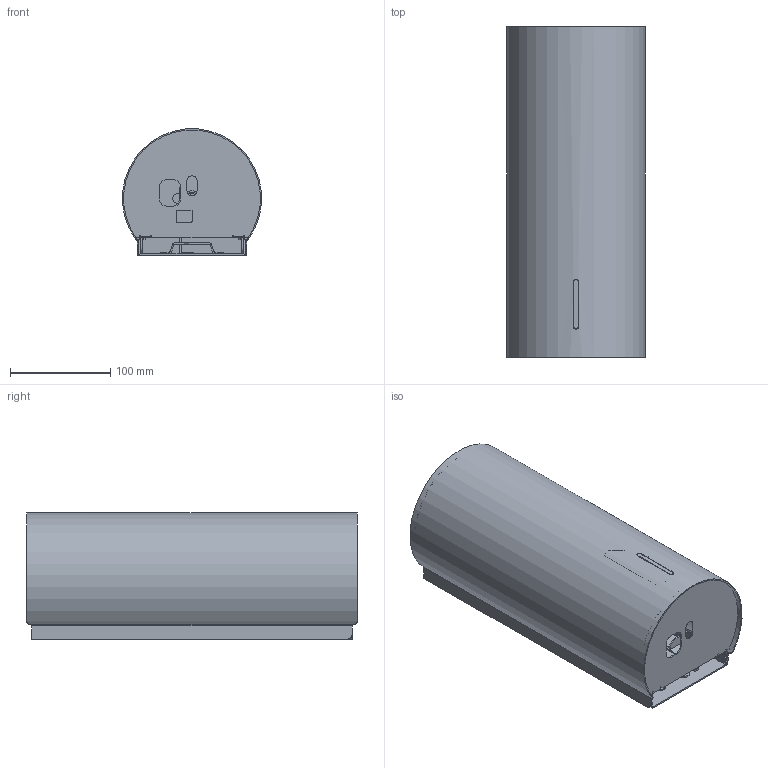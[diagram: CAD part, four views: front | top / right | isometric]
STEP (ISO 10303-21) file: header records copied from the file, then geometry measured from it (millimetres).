
FILE_DESCRIPTION(/* description */ (''),/* implementation_level */ '2;1');
FILE_NAME(/* name */ 'X:\Imported Components\NEW LINE SD\Bjork SD public.stp',/* time_stamp */ '2015-08-10T14:34:33+02:00',/* author */ ('Dan Dryer'),/* organization */ (''),/* preprocessor_version */ 'ST-DEVELOPER v15.6',/* originating_system */ 'Autodesk Inventor 2015',/* authorisation */ '');
FILE_SCHEMA (('AUTOMOTIVE_DESIGN { 1 0 10303 214 3 1 1 }'));
Length unit declared in the file: millimetre
Products named in the file (1): Bjork SD public
Bounding box: 138.63 x 330 x 126.31 mm (x, y, z)
Volume: 250554.1 mm3; surface area: 380448 mm2
Topology: 4 solids, 4 shells, 333 faces, 897 edges, 582 vertices
Faces by surface type: plane 241, cylinder 88, bspline 4
Full cylindrical faces by diameter (mm): 2.5 x1, 2.8 x4, 5.5 x1, 7.2 x1, 15 x1
Entity records: 11273 total; most frequent: CARTESIAN_POINT 2429, ORIENTED_EDGE 1778, DIRECTION 1689, EDGE_CURVE 889, LINE 697, VECTOR 697, VERTEX_POINT 582, AXIS2_PLACEMENT_3D 496
